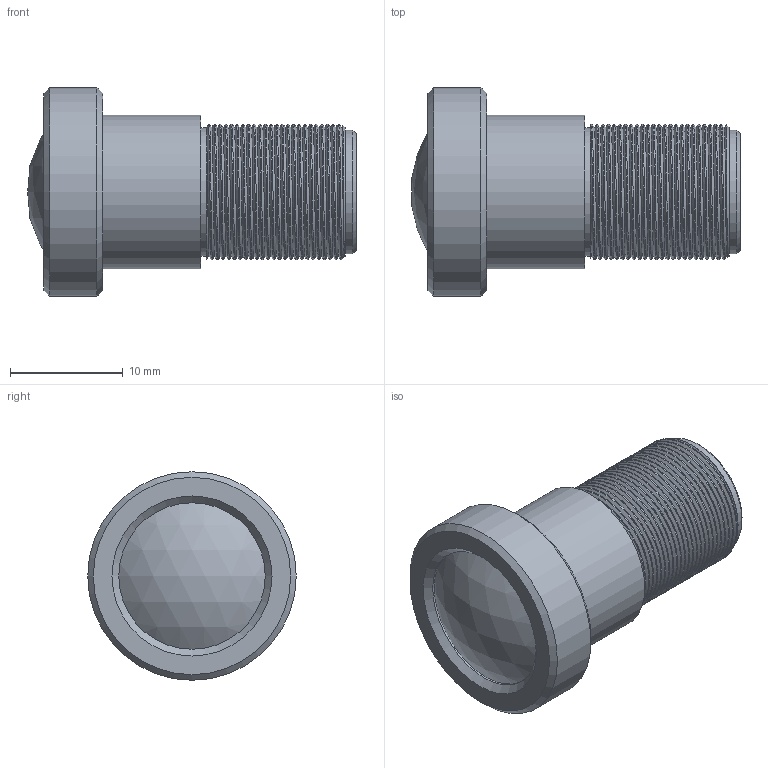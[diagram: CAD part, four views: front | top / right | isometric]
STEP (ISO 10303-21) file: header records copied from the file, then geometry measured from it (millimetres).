
FILE_DESCRIPTION(/* description */ ('7.8mm M12 lens'),/* implementation_level */ '2;1');
FILE_NAME(/* name */ 'C:\Users\MaxHenkart\Desktop\Commonlands\Product\CIL078\CIL078-F3.6-M12A730 v1.stp',/* time_stamp */ '2022-09-09T09:30:06-07:00',/* author */ ('MaxHenkart'),/* organization */ ('Commonlands'),/* preprocessor_version */ 'ST-DEVELOPER v19',/* originating_system */ 'Autodesk Inventor 2023',/* authorisation */ '');
FILE_SCHEMA (('AUTOMOTIVE_DESIGN { 1 0 10303 214 3 1 1 }'));
Length unit declared in the file: millimetre
Products named in the file (1): CIL078
Bounding box: 29.15 x 18.5 x 18.5 mm (x, y, z)
Volume: 4137.2 mm3; surface area: 2108.7 mm2
Topology: 1 solids, 2 shells, 59 faces, 134 edges, 88 vertices
Faces by surface type: cylinder 35, plane 12, cone 8, bspline 3, sphere 1
Full cylindrical faces by diameter (mm): 7.632 x1, 9 x1, 9.2 x1, 9.8 x1, 11 x1, 11.4 x1, 12 x23, 13 x1, 13.6 x1, 15.5 x1, 18.5 x1
Entity records: 4983 total; most frequent: CARTESIAN_POINT 3702, ORIENTED_EDGE 266, DIRECTION 226, EDGE_CURVE 133, AXIS2_PLACEMENT_3D 92, VERTEX_POINT 88, EDGE_LOOP 69, FACE_OUTER_BOUND 59
